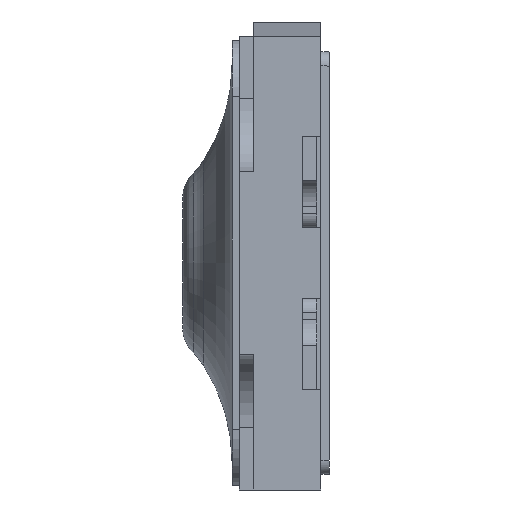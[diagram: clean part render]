
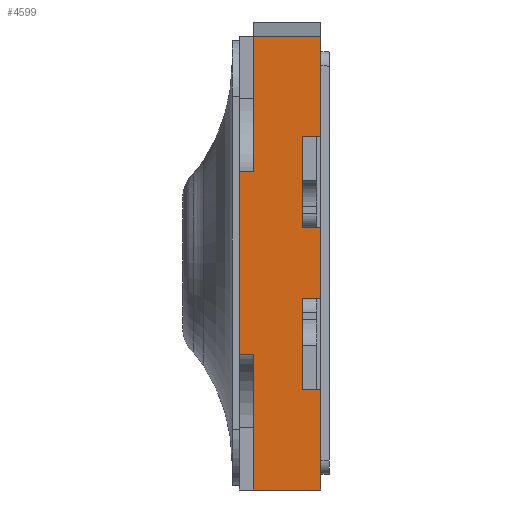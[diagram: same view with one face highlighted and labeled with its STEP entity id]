
A CAD part, left-side view. The second image highlights one B-rep face of the part: STEP entity #4599.
In plain terms, the highlighted planar face has unit normal (-1, 0, 0).
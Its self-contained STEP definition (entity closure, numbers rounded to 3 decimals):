
#9 = EDGE_LOOP ( 'NONE', ( #1869, #739, #1404, #1348, #3142, #341, #1415, #4057 ) ) ;
#35 = VECTOR ( 'NONE', #307, 1000. ) ;
#117 = LINE ( 'NONE', #1911, #5716 ) ;
#307 = DIRECTION ( 'NONE',  ( 0., -1., 0. ) ) ;
#310 = VERTEX_POINT ( 'NONE', #4209 ) ;
#341 = ORIENTED_EDGE ( 'NONE', *, *, #1157, .F. ) ;
#375 = VECTOR ( 'NONE', #4831, 1000. ) ;
#621 = DIRECTION ( 'NONE',  ( 0., 0., -1. ) ) ;
#739 = ORIENTED_EDGE ( 'NONE', *, *, #1851, .F. ) ;
#756 = VECTOR ( 'NONE', #3230, 1000. ) ;
#776 = CARTESIAN_POINT ( 'NONE',  ( -1.3, 0.27, -0.805 ) ) ;
#865 = EDGE_CURVE ( 'NONE', #2019, #2953, #2175, .T. ) ;
#1157 = EDGE_CURVE ( 'NONE', #4191, #2953, #5850, .T. ) ;
#1258 = EDGE_CURVE ( 'NONE', #4606, #310, #4602, .T. ) ;
#1267 = PLANE ( 'NONE',  #4813 ) ;
#1348 = ORIENTED_EDGE ( 'NONE', *, *, #1781, .T. ) ;
#1404 = ORIENTED_EDGE ( 'NONE', *, *, #5847, .F. ) ;
#1415 = ORIENTED_EDGE ( 'NONE', *, *, #3165, .T. ) ;
#1483 = EDGE_CURVE ( 'NONE', #5430, #310, #4195, .T. ) ;
#1490 = CARTESIAN_POINT ( 'NONE',  ( -1.3, 0.27, 0.805 ) ) ;
#1523 = VECTOR ( 'NONE', #4938, 1000. ) ;
#1591 = DIRECTION ( 'NONE',  ( 0., 1., 0. ) ) ;
#1764 = CARTESIAN_POINT ( 'NONE',  ( -1.3, 0.32, -0.325 ) ) ;
#1781 = EDGE_CURVE ( 'NONE', #4049, #2019, #2313, .T. ) ;
#1789 = CARTESIAN_POINT ( 'NONE',  ( -1.3, 0.27, 0.325 ) ) ;
#1851 = EDGE_CURVE ( 'NONE', #5675, #4606, #3940, .T. ) ;
#1869 = ORIENTED_EDGE ( 'NONE', *, *, #1258, .F. ) ;
#1911 = CARTESIAN_POINT ( 'NONE',  ( -1.3, 0.27, -0.325 ) ) ;
#1938 = CARTESIAN_POINT ( 'NONE',  ( -1.3, 0.03, -0.805 ) ) ;
#2019 = VERTEX_POINT ( 'NONE', #2786 ) ;
#2175 = LINE ( 'NONE', #5263, #375 ) ;
#2257 = DIRECTION ( 'NONE',  ( 0., 0., -1. ) ) ;
#2313 = LINE ( 'NONE', #3850, #2894 ) ;
#2786 = CARTESIAN_POINT ( 'NONE',  ( -1.3, 0.32, 0.325 ) ) ;
#2894 = VECTOR ( 'NONE', #1591, 1000. ) ;
#2953 = VERTEX_POINT ( 'NONE', #1764 ) ;
#3129 = CARTESIAN_POINT ( 'NONE',  ( -1.3, 0.53, -0.45 ) ) ;
#3142 = ORIENTED_EDGE ( 'NONE', *, *, #865, .T. ) ;
#3165 = EDGE_CURVE ( 'NONE', #4191, #5430, #117, .T. ) ;
#3220 = CARTESIAN_POINT ( 'NONE',  ( -1.3, 0.03, 0.805 ) ) ;
#3230 = DIRECTION ( 'NONE',  ( 0., 0., 1. ) ) ;
#3375 = DIRECTION ( 'NONE',  ( 0., 0., -1. ) ) ;
#3763 = CARTESIAN_POINT ( 'NONE',  ( -1.3, 0.27, 0.325 ) ) ;
#3798 = VECTOR ( 'NONE', #3375, 1000. ) ;
#3850 = CARTESIAN_POINT ( 'NONE',  ( -1.3, 0.27, 0.325 ) ) ;
#3940 = LINE ( 'NONE', #4781, #35 ) ;
#4049 = VERTEX_POINT ( 'NONE', #3763 ) ;
#4057 = ORIENTED_EDGE ( 'NONE', *, *, #1483, .T. ) ;
#4162 = CARTESIAN_POINT ( 'NONE',  ( -1.3, 0.32, -0.805 ) ) ;
#4191 = VERTEX_POINT ( 'NONE', #5591 ) ;
#4195 = LINE ( 'NONE', #4162, #4760 ) ;
#4209 = CARTESIAN_POINT ( 'NONE',  ( -1.3, 0.03, -0.805 ) ) ;
#4389 = LINE ( 'NONE', #1789, #756 ) ;
#4599 = ADVANCED_FACE ( 'NONE', ( #4960 ), #1267, .F. ) ;
#4602 = LINE ( 'NONE', #1938, #3798 ) ;
#4606 = VERTEX_POINT ( 'NONE', #3220 ) ;
#4685 = DIRECTION ( 'NONE',  ( 0., -1., 0. ) ) ;
#4760 = VECTOR ( 'NONE', #4685, 1000. ) ;
#4781 = CARTESIAN_POINT ( 'NONE',  ( -1.3, 0.32, 0.805 ) ) ;
#4813 = AXIS2_PLACEMENT_3D ( 'NONE', #3129, #5851, #2257 ) ;
#4831 = DIRECTION ( 'NONE',  ( 0., 0., -1. ) ) ;
#4938 = DIRECTION ( 'NONE',  ( 0., 1., 0. ) ) ;
#4960 = FACE_OUTER_BOUND ( 'NONE', #9, .T. ) ;
#5020 = CARTESIAN_POINT ( 'NONE',  ( -1.3, 0.27, -0.325 ) ) ;
#5263 = CARTESIAN_POINT ( 'NONE',  ( -1.3, 0.32, 0.325 ) ) ;
#5430 = VERTEX_POINT ( 'NONE', #776 ) ;
#5591 = CARTESIAN_POINT ( 'NONE',  ( -1.3, 0.27, -0.325 ) ) ;
#5675 = VERTEX_POINT ( 'NONE', #1490 ) ;
#5716 = VECTOR ( 'NONE', #621, 1000. ) ;
#5847 = EDGE_CURVE ( 'NONE', #4049, #5675, #4389, .T. ) ;
#5850 = LINE ( 'NONE', #5020, #1523 ) ;
#5851 = DIRECTION ( 'NONE',  ( 1., 0., 0. ) ) ;
